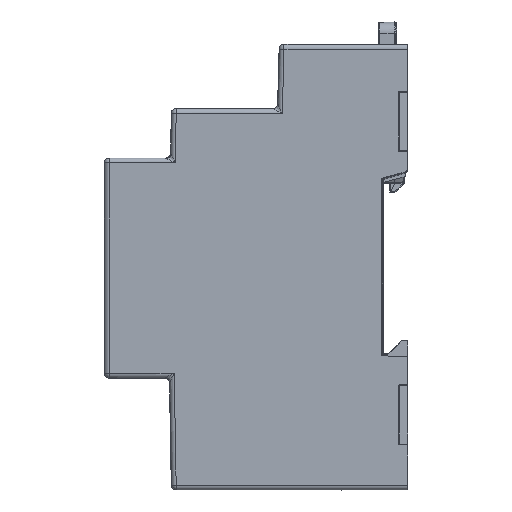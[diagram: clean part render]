
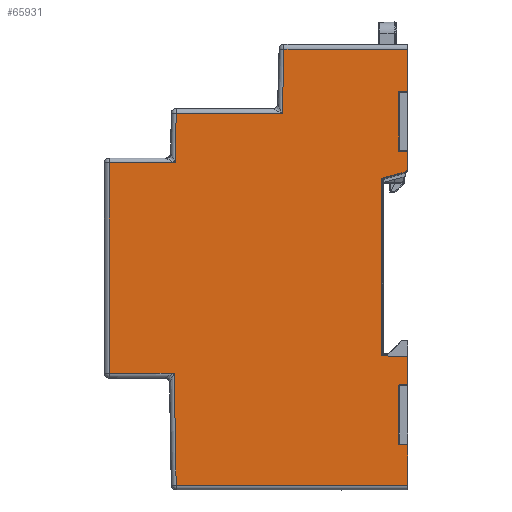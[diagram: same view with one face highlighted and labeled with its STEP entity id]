
A CAD part, left-side view. The second image highlights one B-rep face of the part: STEP entity #65931.
In plain terms, the highlighted planar face has unit normal (-1, 0, 0).
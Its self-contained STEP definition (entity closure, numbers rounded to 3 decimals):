
#1356=CIRCLE('',#69424,1.);
#7199=FACE_OUTER_BOUND('',#10884,.T.);
#10884=EDGE_LOOP('',(#54818,#54819,#54820,#54821,#54822,#54823,#54824,#54825,
#54826,#54827,#54828,#54829,#54830,#54831,#54832,#54833,#54834,#54835,#54836,
#54837,#54838,#54839,#54840));
#16821=LINE('',#113085,#23314);
#16832=LINE('',#113119,#23325);
#17135=LINE('',#115157,#23628);
#17181=LINE('',#115262,#23674);
#17182=LINE('',#115265,#23675);
#17183=LINE('',#115267,#23676);
#17184=LINE('',#115269,#23677);
#17185=LINE('',#115271,#23678);
#17186=LINE('',#115273,#23679);
#17187=LINE('',#115275,#23680);
#17188=LINE('',#115277,#23681);
#17189=LINE('',#115279,#23682);
#17190=LINE('',#115281,#23683);
#17191=LINE('',#115283,#23684);
#17192=LINE('',#115285,#23685);
#17193=LINE('',#115287,#23686);
#17194=LINE('',#115289,#23687);
#17195=LINE('',#115291,#23688);
#17196=LINE('',#115293,#23689);
#17197=LINE('',#115295,#23690);
#17198=LINE('',#115296,#23691);
#17199=LINE('',#115297,#23692);
#23314=VECTOR('',#81076,1000.);
#23325=VECTOR('',#81101,1000.);
#23628=VECTOR('',#81448,1000.);
#23674=VECTOR('',#81510,1000.);
#23675=VECTOR('',#81513,1000.);
#23676=VECTOR('',#81514,1000.);
#23677=VECTOR('',#81515,1000.);
#23678=VECTOR('',#81516,1000.);
#23679=VECTOR('',#81517,1000.);
#23680=VECTOR('',#81518,1000.);
#23681=VECTOR('',#81519,1000.);
#23682=VECTOR('',#81520,1000.);
#23683=VECTOR('',#81521,1000.);
#23684=VECTOR('',#81522,1000.);
#23685=VECTOR('',#81523,1000.);
#23686=VECTOR('',#81524,1000.);
#23687=VECTOR('',#81525,1000.);
#23688=VECTOR('',#81526,1000.);
#23689=VECTOR('',#81527,1000.);
#23690=VECTOR('',#81528,1000.);
#23691=VECTOR('',#81529,1000.);
#23692=VECTOR('',#81530,1000.);
#29176=VERTEX_POINT('',#113076);
#29180=VERTEX_POINT('',#113083);
#29195=VERTEX_POINT('',#113116);
#29196=VERTEX_POINT('',#113118);
#29632=VERTEX_POINT('',#115146);
#29637=VERTEX_POINT('',#115155);
#29682=VERTEX_POINT('',#115261);
#29683=VERTEX_POINT('',#115264);
#29684=VERTEX_POINT('',#115266);
#29685=VERTEX_POINT('',#115268);
#29686=VERTEX_POINT('',#115270);
#29687=VERTEX_POINT('',#115272);
#29688=VERTEX_POINT('',#115274);
#29689=VERTEX_POINT('',#115276);
#29690=VERTEX_POINT('',#115278);
#29691=VERTEX_POINT('',#115280);
#29692=VERTEX_POINT('',#115282);
#29693=VERTEX_POINT('',#115284);
#29694=VERTEX_POINT('',#115286);
#29695=VERTEX_POINT('',#115288);
#29696=VERTEX_POINT('',#115290);
#29697=VERTEX_POINT('',#115292);
#29698=VERTEX_POINT('',#115294);
#37682=EDGE_CURVE('',#29180,#29176,#16821,.T.);
#37697=EDGE_CURVE('',#29195,#29196,#16832,.T.);
#38165=EDGE_CURVE('',#29632,#29637,#17135,.T.);
#38216=EDGE_CURVE('',#29682,#29637,#17181,.T.);
#38217=EDGE_CURVE('',#29682,#29176,#1356,.T.);
#38218=EDGE_CURVE('',#29180,#29683,#17182,.T.);
#38219=EDGE_CURVE('',#29683,#29684,#17183,.T.);
#38220=EDGE_CURVE('',#29684,#29685,#17184,.T.);
#38221=EDGE_CURVE('',#29686,#29685,#17185,.T.);
#38222=EDGE_CURVE('',#29686,#29687,#17186,.T.);
#38223=EDGE_CURVE('',#29687,#29688,#17187,.T.);
#38224=EDGE_CURVE('',#29688,#29689,#17188,.T.);
#38225=EDGE_CURVE('',#29689,#29690,#17189,.T.);
#38226=EDGE_CURVE('',#29690,#29691,#17190,.T.);
#38227=EDGE_CURVE('',#29691,#29692,#17191,.T.);
#38228=EDGE_CURVE('',#29692,#29693,#17192,.T.);
#38229=EDGE_CURVE('',#29693,#29694,#17193,.T.);
#38230=EDGE_CURVE('',#29694,#29695,#17194,.T.);
#38231=EDGE_CURVE('',#29696,#29695,#17195,.T.);
#38232=EDGE_CURVE('',#29696,#29697,#17196,.T.);
#38233=EDGE_CURVE('',#29697,#29698,#17197,.T.);
#38234=EDGE_CURVE('',#29698,#29196,#17198,.T.);
#38235=EDGE_CURVE('',#29632,#29195,#17199,.T.);
#54818=ORIENTED_EDGE('',*,*,#38216,.F.);
#54819=ORIENTED_EDGE('',*,*,#38217,.T.);
#54820=ORIENTED_EDGE('',*,*,#37682,.F.);
#54821=ORIENTED_EDGE('',*,*,#38218,.T.);
#54822=ORIENTED_EDGE('',*,*,#38219,.T.);
#54823=ORIENTED_EDGE('',*,*,#38220,.T.);
#54824=ORIENTED_EDGE('',*,*,#38221,.F.);
#54825=ORIENTED_EDGE('',*,*,#38222,.T.);
#54826=ORIENTED_EDGE('',*,*,#38223,.T.);
#54827=ORIENTED_EDGE('',*,*,#38224,.T.);
#54828=ORIENTED_EDGE('',*,*,#38225,.T.);
#54829=ORIENTED_EDGE('',*,*,#38226,.T.);
#54830=ORIENTED_EDGE('',*,*,#38227,.T.);
#54831=ORIENTED_EDGE('',*,*,#38228,.T.);
#54832=ORIENTED_EDGE('',*,*,#38229,.T.);
#54833=ORIENTED_EDGE('',*,*,#38230,.T.);
#54834=ORIENTED_EDGE('',*,*,#38231,.F.);
#54835=ORIENTED_EDGE('',*,*,#38232,.T.);
#54836=ORIENTED_EDGE('',*,*,#38233,.T.);
#54837=ORIENTED_EDGE('',*,*,#38234,.T.);
#54838=ORIENTED_EDGE('',*,*,#37697,.F.);
#54839=ORIENTED_EDGE('',*,*,#38235,.F.);
#54840=ORIENTED_EDGE('',*,*,#38165,.T.);
#59204=PLANE('',#69423);
#65931=ADVANCED_FACE('',(#7199),#59204,.F.);
#69423=AXIS2_PLACEMENT_3D('',#115260,#81508,#81509);
#69424=AXIS2_PLACEMENT_3D('',#115263,#81511,#81512);
#81076=DIRECTION('',(0.,0.,-1.));
#81101=DIRECTION('',(0.,0.,-1.));
#81448=DIRECTION('',(0.,0.,1.));
#81508=DIRECTION('center_axis',(1.,0.,0.));
#81509=DIRECTION('ref_axis',(0.,0.,-1.));
#81510=DIRECTION('',(0.,0.966,-0.259));
#81511=DIRECTION('center_axis',(-1.,0.,0.));
#81512=DIRECTION('ref_axis',(0.,0.,-1.));
#81513=DIRECTION('',(0.,1.,0.026));
#81514=DIRECTION('',(0.,0.,1.));
#81515=DIRECTION('',(0.,-1.,0.026));
#81516=DIRECTION('',(0.,0.,-1.));
#81517=DIRECTION('',(0.,1.,0.));
#81518=DIRECTION('',(0.,0.026,-1.));
#81519=DIRECTION('',(0.,1.,0.));
#81520=DIRECTION('',(0.,0.017,-1.));
#81521=DIRECTION('',(0.,1.,0.));
#81522=DIRECTION('',(0.,0.,-1.));
#81523=DIRECTION('',(0.,-1.,0.));
#81524=DIRECTION('',(0.,-0.017,-1.));
#81525=DIRECTION('',(0.,-1.,0.));
#81526=DIRECTION('',(0.,0.,-1.));
#81527=DIRECTION('',(0.,1.,0.026));
#81528=DIRECTION('',(0.,0.,1.));
#81529=DIRECTION('',(0.,-1.,0.026));
#81530=DIRECTION('',(0.,-0.999,-0.052));
#113076=CARTESIAN_POINT('',(-53.557,0.,20.548));
#113083=CARTESIAN_POINT('',(-53.557,0.,23.849));
#113085=CARTESIAN_POINT('',(-53.557,0.,32.129));
#113116=CARTESIAN_POINT('',(-53.557,0.,-18.181));
#113118=CARTESIAN_POINT('',(-53.557,0.,-23.849));
#113119=CARTESIAN_POINT('',(-53.557,0.,-32.129));
#115146=CARTESIAN_POINT('',(-53.557,5.36,-17.9));
#115155=CARTESIAN_POINT('',(-53.557,5.36,18.344));
#115157=CARTESIAN_POINT('',(-53.557,5.36,-29.572));
#115260=CARTESIAN_POINT('Origin',(-53.557,23.663,-29.572));
#115261=CARTESIAN_POINT('',(-53.557,0.741,19.582));
#115262=CARTESIAN_POINT('',(-53.557,34.416,10.559));
#115263=CARTESIAN_POINT('Origin',(-53.557,1.,20.548));
#115264=CARTESIAN_POINT('',(-53.557,1.86,23.897));
#115265=CARTESIAN_POINT('',(-53.557,22.249,24.431));
#115266=CARTESIAN_POINT('',(-53.557,1.86,36.103));
#115267=CARTESIAN_POINT('',(-53.557,1.86,-29.572));
#115268=CARTESIAN_POINT('',(-53.557,0.,36.151));
#115269=CARTESIAN_POINT('',(-53.557,25.367,35.487));
#115270=CARTESIAN_POINT('',(-53.557,0.,44.75));
#115271=CARTESIAN_POINT('',(-53.557,0.,32.129));
#115272=CARTESIAN_POINT('',(-53.557,25.281,44.75));
#115273=CARTESIAN_POINT('',(-53.557,26.256,44.75));
#115274=CARTESIAN_POINT('',(-53.557,25.626,31.6));
#115275=CARTESIAN_POINT('',(-53.557,25.6,32.574));
#115276=CARTESIAN_POINT('',(-53.557,47.317,31.6));
#115277=CARTESIAN_POINT('',(-53.557,23.663,31.6));
#115278=CARTESIAN_POINT('',(-53.557,47.494,21.5));
#115279=CARTESIAN_POINT('',(-53.557,47.476,22.483));
#115280=CARTESIAN_POINT('',(-53.557,61.,21.5));
#115281=CARTESIAN_POINT('',(-53.557,23.663,21.5));
#115282=CARTESIAN_POINT('',(-53.557,61.,-21.5));
#115283=CARTESIAN_POINT('',(-53.557,61.,-22.5));
#115284=CARTESIAN_POINT('',(-53.557,47.716,-21.5));
#115285=CARTESIAN_POINT('',(-53.557,48.699,-21.5));
#115286=CARTESIAN_POINT('',(-53.557,47.317,-44.357));
#115287=CARTESIAN_POINT('',(-53.557,47.3,-45.34));
#115288=CARTESIAN_POINT('',(-53.557,0.,-44.357));
#115289=CARTESIAN_POINT('',(-53.557,0.,-44.357));
#115290=CARTESIAN_POINT('',(-53.557,0.,-36.151));
#115291=CARTESIAN_POINT('',(-53.557,0.,-32.129));
#115292=CARTESIAN_POINT('',(-53.557,1.86,-36.103));
#115293=CARTESIAN_POINT('',(-53.557,23.819,-35.528));
#115294=CARTESIAN_POINT('',(-53.557,1.86,-23.897));
#115295=CARTESIAN_POINT('',(-53.557,1.86,-29.572));
#115296=CARTESIAN_POINT('',(-53.557,23.797,-24.472));
#115297=CARTESIAN_POINT('',(-53.557,5.36,-17.9));
